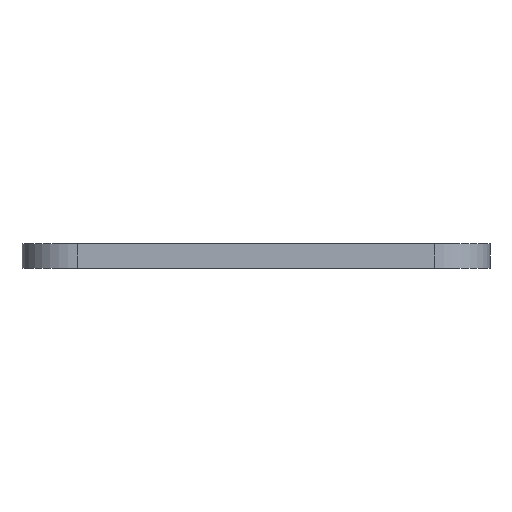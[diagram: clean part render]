
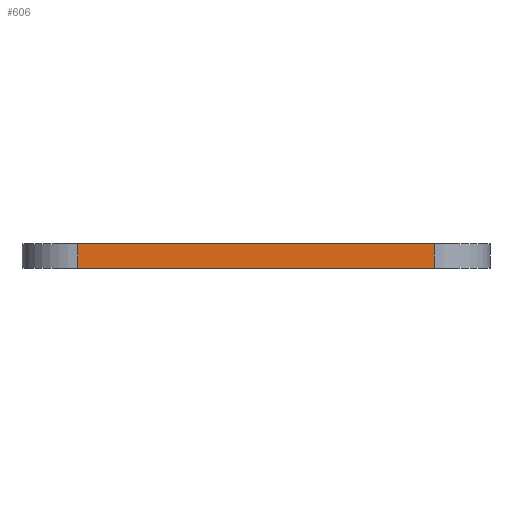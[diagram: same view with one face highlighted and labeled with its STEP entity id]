
A CAD part, front view. The second image highlights one B-rep face of the part: STEP entity #606.
In plain terms, the highlighted planar face has unit normal (0, -1, 0).
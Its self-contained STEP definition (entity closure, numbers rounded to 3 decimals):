
#5 = EDGE_CURVE ( 'NONE', #475, #279, #554, .T. ) ;
#15 = DIRECTION ( 'NONE',  ( 0., 0., -1. ) ) ;
#31 = DIRECTION ( 'NONE',  ( 1., 0., 0. ) ) ;
#35 = DIRECTION ( 'NONE',  ( 0., 0., -1. ) ) ;
#39 = EDGE_CURVE ( 'NONE', #279, #281, #558, .T. ) ;
#113 = LINE ( 'NONE', #243, #115 ) ;
#115 = VECTOR ( 'NONE', #31, 1000. ) ;
#121 = FACE_OUTER_BOUND ( 'NONE', #387, .T. ) ;
#125 = VECTOR ( 'NONE', #35, 1000. ) ;
#130 = LINE ( 'NONE', #612, #125 ) ;
#177 = ORIENTED_EDGE ( 'NONE', *, *, #624, .F. ) ;
#228 = CARTESIAN_POINT ( 'NONE',  ( -11.5, -15.1, 1.6 ) ) ;
#243 = CARTESIAN_POINT ( 'NONE',  ( -11.5, -15.1, 1.6 ) ) ;
#253 = VERTEX_POINT ( 'NONE', #323 ) ;
#279 = VERTEX_POINT ( 'NONE', #735 ) ;
#281 = VERTEX_POINT ( 'NONE', #743 ) ;
#283 = DIRECTION ( 'NONE',  ( -1., 0., 0. ) ) ;
#290 = CARTESIAN_POINT ( 'NONE',  ( -11.5, -15.1, 1.6 ) ) ;
#291 = DIRECTION ( 'NONE',  ( 0., 1., 0. ) ) ;
#297 = ORIENTED_EDGE ( 'NONE', *, *, #39, .T. ) ;
#323 = CARTESIAN_POINT ( 'NONE',  ( 11.5, -15.1, 1.6 ) ) ;
#387 = EDGE_LOOP ( 'NONE', ( #297, #397, #177, #537 ) ) ;
#397 = ORIENTED_EDGE ( 'NONE', *, *, #599, .F. ) ;
#472 = PLANE ( 'NONE',  #551 ) ;
#475 = VERTEX_POINT ( 'NONE', #602 ) ;
#486 = CARTESIAN_POINT ( 'NONE',  ( -11.5, -15.1, 0. ) ) ;
#535 = VECTOR ( 'NONE', #15, 1000. ) ;
#537 = ORIENTED_EDGE ( 'NONE', *, *, #5, .T. ) ;
#551 = AXIS2_PLACEMENT_3D ( 'NONE', #290, #291, #283 ) ;
#554 = LINE ( 'NONE', #228, #535 ) ;
#558 = LINE ( 'NONE', #486, #662 ) ;
#599 = EDGE_CURVE ( 'NONE', #253, #281, #130, .T. ) ;
#602 = CARTESIAN_POINT ( 'NONE',  ( -11.5, -15.1, 1.6 ) ) ;
#606 = ADVANCED_FACE ( 'NONE', ( #121 ), #472, .F. ) ;
#612 = CARTESIAN_POINT ( 'NONE',  ( 11.5, -15.1, 1.6 ) ) ;
#624 = EDGE_CURVE ( 'NONE', #475, #253, #113, .T. ) ;
#662 = VECTOR ( 'NONE', #724, 1000. ) ;
#724 = DIRECTION ( 'NONE',  ( 1., 0., 0. ) ) ;
#735 = CARTESIAN_POINT ( 'NONE',  ( -11.5, -15.1, 0. ) ) ;
#743 = CARTESIAN_POINT ( 'NONE',  ( 11.5, -15.1, 0. ) ) ;
